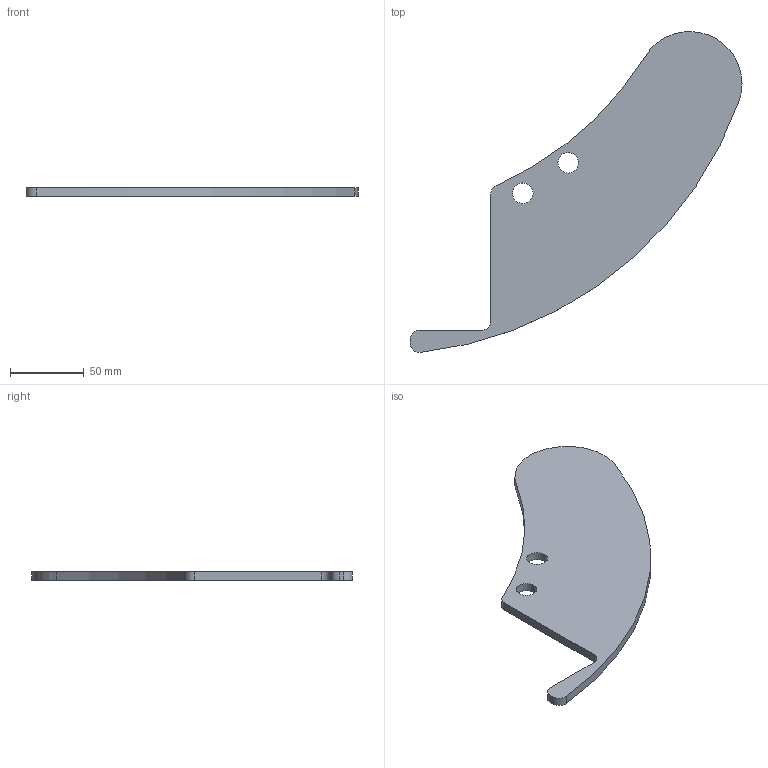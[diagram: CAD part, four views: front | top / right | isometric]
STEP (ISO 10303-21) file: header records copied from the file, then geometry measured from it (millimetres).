
FILE_DESCRIPTION (( 'STEP AP214' ), '1' );
FILE_NAME ('YYDK-500-0010 油管保护罩1（500T）-1.step', '2024-11-20T05:46:39', ( '' ), ( '' ), 'SwSTEP 2.0', 'SolidWorks 2020', '' );
FILE_SCHEMA (( 'AUTOMOTIVE_DESIGN' ));
Length unit declared in the file: millimetre
Products named in the file (1): YYDK-500-0010 油管保护罩1（500T）-1
Bounding box: 225.72 x 218.19 x 5.99 mm (x, y, z)
Volume: 110470.4 mm3; surface area: 41578.9 mm2
Topology: 1 solids, 1 shells, 16 faces, 42 edges, 28 vertices
Faces by surface type: cylinder 11, plane 5
Entity records: 550 total; most frequent: DIRECTION 98, CARTESIAN_POINT 87, ORIENTED_EDGE 84, EDGE_CURVE 42, AXIS2_PLACEMENT_3D 39, VERTEX_POINT 28, CIRCLE 22, VECTOR 20
